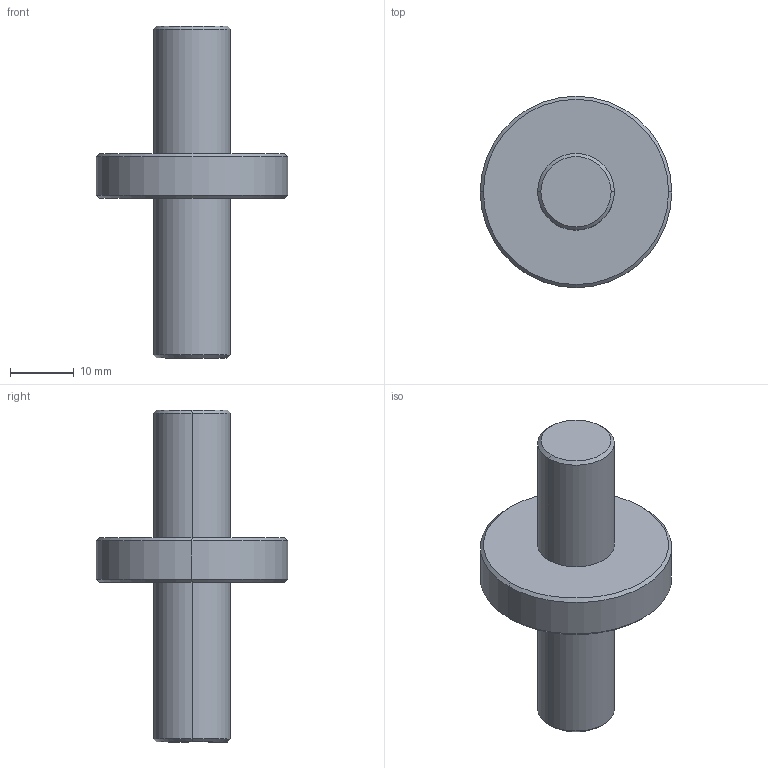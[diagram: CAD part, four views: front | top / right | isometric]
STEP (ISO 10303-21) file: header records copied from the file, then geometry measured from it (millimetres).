
FILE_DESCRIPTION(('CATIA V5 STEP Exchange'),'2;1');
FILE_NAME('D:\姚明阳\1、工装图纸\AGZ099\AGZ099.01_V1.stp','2023-06-06T03:43:08+00:00',('none'),('none'),'CATIA Version 5 Release 21 GA (IN-10)','CATIA V5 STEP AP214','none');
FILE_SCHEMA(('AUTOMOTIVE_DESIGN { 1 0 10303 214 1 1 1 1 }'));
Length unit declared in the file: millimetre
Products named in the file (1): GZ07.13_V1.1.2
Bounding box: 30 x 30 x 52 mm (x, y, z)
Volume: 10004.9 mm3; surface area: 3691.3 mm2
Topology: 1 solids, 1 shells, 18 faces, 34 edges, 20 vertices
Faces by surface type: cone 8, cylinder 6, plane 4
Entity records: 441 total; most frequent: CARTESIAN_POINT 70, ORIENTED_EDGE 68, DIRECTION 64, AXIS2_PLACEMENT_3D 36, EDGE_CURVE 34, CIRCLE 20, EDGE_LOOP 20, VERTEX_POINT 20
